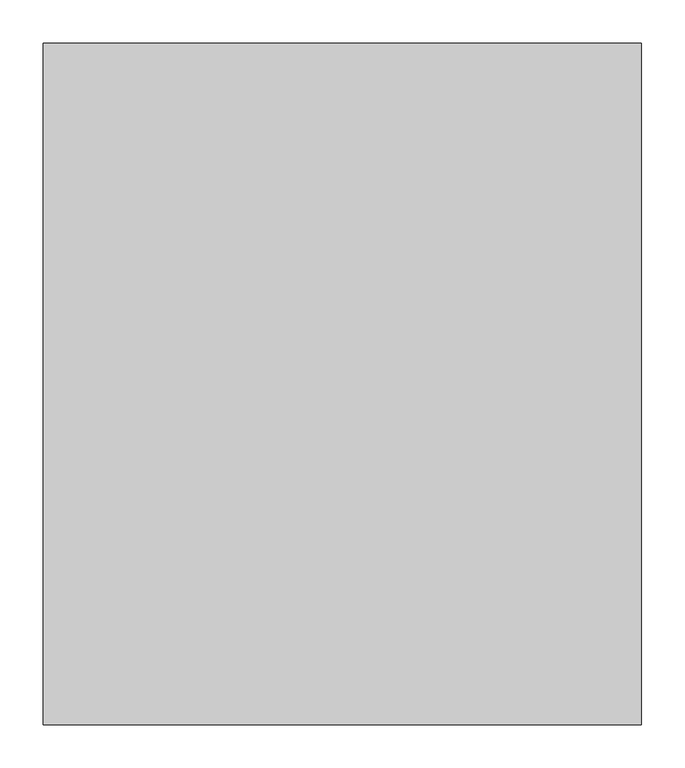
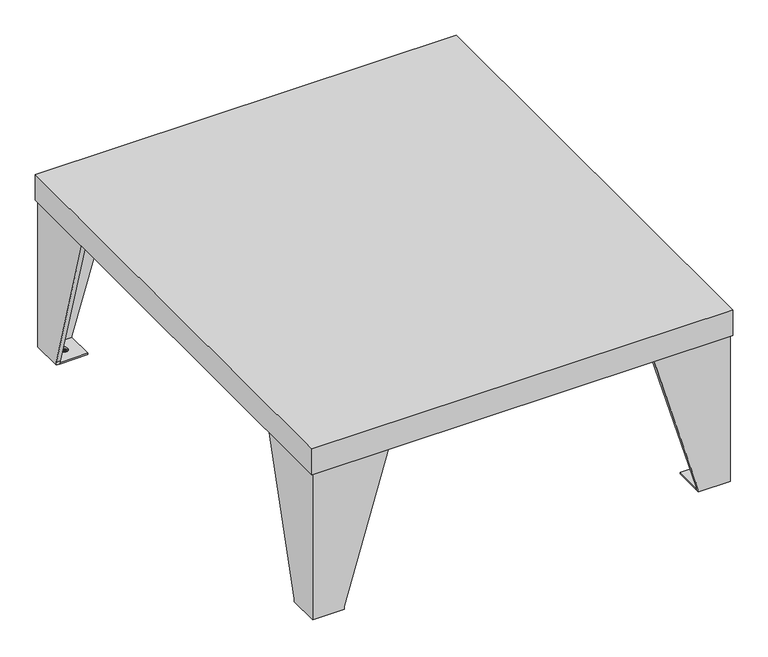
"""IFC4 building model written with IfcOpenShell, lengths in millimetres: proxy geometry, 11792140_EU_APWM038_IG : 59510038_EU_11792140_APWM038_IG."""

from ifc_helpers import new_model, si_unit, point, frame, frame_2d, origin, origin_with_axes, place, context, project, spatial, polyline, circle_curve, trimmed, segment, composite_curve, outline, extrude, faceted_brep, source, transform, mapped, element, save


def specialty_equipment_d00d0301(model_context):
    return source(origin(), model_context, "Body", "SolidModel", [
        extrude(outline(polyline([(-291.7, -734.4), (-291.7, -779.7), (-337.0, -779.7), (-337.0, -734.4), (-291.7, -734.4)]), holes=[composite_curve([segment(trimmed(circle_curve(frame_2d((-316.7, -759.4)), 6.5478227), [point((-323.2478227, -759.4))], [point((-310.1521773, -759.4))], True, "CARTESIAN"), True, "CONTINUOUS"), segment(trimmed(circle_curve(frame_2d((-316.7, -759.4)), 6.5478227), [point((-310.1521773, -759.4))], [point((-323.2478227, -759.4))], True, "CARTESIAN"), True, "CONTINUOUS")], self_intersect=False)]), origin_with_axes(), (0.0, 0.0, 1.0), 2.5),
        extrude(outline(polyline([(-291.7, -55.0), (-337.0, -55.0), (-337.0, -9.7), (-291.7, -9.7), (-291.7, -55.0)]), holes=[composite_curve([segment(trimmed(circle_curve(frame_2d((-316.7, -30.0)), 6.5478227), [point((-310.1521773, -30.0))], [point((-323.2478227, -30.0))], True, "CARTESIAN"), True, "CONTINUOUS"), segment(trimmed(circle_curve(frame_2d((-316.7, -30.0)), 6.5478227), [point((-323.2478227, -30.0))], [point((-310.1521773, -30.0))], True, "CARTESIAN"), True, "CONTINUOUS")], self_intersect=False)]), origin_with_axes(), (0.0, 0.0, 1.0), 2.5),
        extrude(outline(polyline([(291.7, -55.0), (291.7, -9.7), (337.0, -9.7), (337.0, -55.0), (291.7, -55.0)]), holes=[composite_curve([segment(trimmed(circle_curve(frame_2d((316.7, -30.0)), 6.5478227), [point((323.2478227, -30.0))], [point((310.1521773, -30.0))], True, "CARTESIAN"), True, "CONTINUOUS"), segment(trimmed(circle_curve(frame_2d((316.7, -30.0)), 6.5478227), [point((310.1521773, -30.0))], [point((323.2478227, -30.0))], True, "CARTESIAN"), True, "CONTINUOUS")], self_intersect=False)]), origin_with_axes(), (0.0, 0.0, 1.0), 2.5),
        extrude(outline(polyline([(291.7, -734.4), (337.0, -734.4), (337.0, -779.7), (291.7, -779.7), (291.7, -734.4)]), holes=[composite_curve([segment(trimmed(circle_curve(frame_2d((316.7, -759.4)), 6.5478227), [point((310.1521773, -759.4))], [point((323.2478227, -759.4))], True, "CARTESIAN"), True, "CONTINUOUS"), segment(trimmed(circle_curve(frame_2d((316.7, -759.4)), 6.5478227), [point((323.2478227, -759.4))], [point((310.1521773, -759.4))], True, "CARTESIAN"), True, "CONTINUOUS")], self_intersect=False)]), origin_with_axes(), (0.0, 0.0, 1.0), 2.5),
        faceted_brep([(346.7, -789.4, 300.0), (-346.7, -789.4, 300.0), (-346.7, -789.4, 254.9999847), (346.7, -789.4, 254.9999847), (346.7, 0.0, 300.0), (346.7, 0.0, 254.9999847), (-346.7, 0.0, 254.9999847), (-346.7, 0.0, 300.0), (-342.7, -785.4, 254.9999847), (342.7, -785.4, 254.9999847), (342.7, -4.0, 254.9999847), (-342.7, -4.0, 254.9999847), (-342.7, -785.4, 298.0), (342.7, -785.4, 298.0), (342.7, -4.0, 298.0), (-342.7, -4.0, 298.0)], [[[0, 1, 2, 3]], [[4, 5, 6, 7]], [[1, 0, 4, 7]], [[2, 1, 7, 6]], [[3, 2, 6, 5], [8, 9, 10, 11]], [[0, 3, 5, 4]], [[8, 12, 13, 9]], [[10, 14, 15, 11]], [[9, 13, 14, 10]], [[13, 12, 15, 14]], [[12, 8, 11, 15]]]),
        faceted_brep([(218.120279, -786.4, 254.9999847), (343.7, -786.4, 254.9999847), (343.7, -660.8205631, 254.9999847), (337.0, -660.8205631, 254.9999847), (337.0, -779.7, 254.9999847), (218.120279, -779.7, 254.9999847), (291.7, -779.7, 0.0), (337.0, -779.7, 0.0), (337.0, -734.4, 0.0), (343.7, -734.4, 0.0), (343.7, -786.4, 0.0), (291.7, -786.4, 0.0), (337.0, -734.4, 5.0), (343.7, -734.4, 5.0), (291.7, -786.4, 5.0), (291.7, -779.7, 5.0)], [[[0, 1, 2, 3, 4, 5]], [[6, 7, 8, 9, 10, 11]], [[12, 13, 9, 8]], [[13, 12, 3, 2]], [[14, 15, 6, 11]], [[15, 14, 0, 5]], [[1, 0, 14, 11, 10]], [[1, 10, 9, 13, 2]], [[7, 4, 3, 12, 8]], [[5, 4, 7, 6, 15]]]),
        faceted_brep([(-218.120279, -779.7, 254.9999847), (-337.0, -779.7, 254.9999847), (-337.0, -660.8205631, 254.9999847), (-343.7, -660.8205631, 254.9999847), (-343.7, -786.4, 254.9999847), (-218.120279, -786.4, 254.9999847), (-291.7, -786.4, 0.0), (-343.7, -786.4, 0.0), (-343.7, -734.4, 0.0), (-337.0, -734.4, 0.0), (-337.0, -779.7, 0.0), (-291.7, -779.7, 0.0), (-291.7, -779.7, 5.0), (-291.7, -786.4, 5.0), (-343.7, -734.4, 5.0), (-337.0, -734.4, 5.0)], [[[0, 1, 2, 3, 4, 5]], [[6, 7, 8, 9, 10, 11]], [[12, 13, 6, 11]], [[13, 12, 0, 5]], [[14, 15, 9, 8]], [[15, 14, 3, 2]], [[1, 0, 12, 11, 10]], [[1, 10, 9, 15, 2]], [[7, 4, 3, 14, 8]], [[5, 4, 7, 6, 13]]]),
        faceted_brep([(-218.120279, -3.0, 254.9999847), (-343.7, -3.0, 254.9999847), (-343.7, -128.5922782, 254.9999847), (-337.0, -128.5922782, 254.9999847), (-337.0, -9.7, 254.9999847), (-218.120279, -9.7, 254.9999847), (-291.7, -9.7, 0.0), (-337.0, -9.7, 0.0), (-337.0, -55.0, 0.0), (-343.7, -55.0, 0.0), (-343.7, -3.0, 0.0), (-291.7, -3.0, 0.0), (-291.7, -3.0, 5.0), (-291.7, -9.7, 5.0), (-337.0, -55.0, 5.0), (-343.7, -55.0, 5.0)], [[[0, 1, 2, 3, 4, 5]], [[6, 7, 8, 9, 10, 11]], [[12, 13, 6, 11]], [[13, 12, 0, 5]], [[14, 15, 9, 8]], [[15, 14, 3, 2]], [[1, 0, 12, 11, 10]], [[1, 10, 9, 15, 2]], [[7, 4, 3, 14, 8]], [[5, 4, 7, 6, 13]]]),
        faceted_brep([(218.120279, -9.7, 254.9999847), (337.0, -9.7, 254.9999847), (337.0, -128.5922782, 254.9999847), (343.7, -128.5922782, 254.9999847), (343.7, -3.0, 254.9999847), (218.120279, -3.0, 254.9999847), (291.7, -3.0, 0.0), (343.7, -3.0, 0.0), (343.7, -55.0, 0.0), (337.0, -55.0, 0.0), (337.0, -9.7, 0.0), (291.7, -9.7, 0.0), (343.7, -55.0, 5.0), (337.0, -55.0, 5.0), (291.7, -9.7, 5.0), (291.7, -3.0, 5.0)], [[[0, 1, 2, 3, 4, 5]], [[6, 7, 8, 9, 10, 11]], [[12, 13, 9, 8]], [[13, 12, 3, 2]], [[14, 15, 6, 11]], [[15, 14, 0, 5]], [[1, 0, 14, 11, 10]], [[1, 10, 9, 13, 2]], [[7, 4, 3, 12, 8]], [[5, 4, 7, 6, 15]]]),
        extrude(outline(polyline([(-320.2316672, -764.4), (-320.2316672, -754.354369), (-316.3983368, -754.354369), (-314.5209123, -754.6499009), (-313.4123612, -755.5585694), (-313.0113699, -756.8437038), (-313.348595, -758.0172474), (-314.3676282, -758.9062955), (-313.1303184, -759.8431684), (-312.6974439, -761.4054406), (-312.9929758, -762.7555675), (-313.7250609, -763.7169658), (-314.8176705, -764.2270955), (-316.4277673, -764.4), (-320.2316672, -764.4)]), holes=[polyline([(-318.9759633, -758.4354066), (-316.6828322, -758.4354066), (-315.3437417, -758.3274945), (-314.5380801, -757.8627369), (-314.2670737, -757.0448126), (-314.519686, -756.2256621), (-315.2431873, -755.7412841), (-316.856963, -755.6100729), (-318.9759633, -755.6100729), (-318.9759633, -758.4354066)]), polyline([(-318.9759633, -763.1442961), (-316.4007893, -763.1442961), (-315.4688216, -763.0952452), (-314.6803278, -762.8217862), (-313.9531478, -761.4177033), (-314.1934973, -760.4415897), (-314.9721809, -759.8591099), (-316.5234166, -759.6911105), (-318.9759633, -759.6911105), (-318.9759633, -763.1442961)])]), frame((0.0, 0.0, -1.0), z_axis=(0.0, 0.0, 1.0), x_axis=(1.0, 0.0, 0.0)), (0.0, 0.0, 1.0), 1.0),
        extrude(outline(polyline([(313.2154503, -764.4), (313.2154503, -754.354369), (317.0487807, -754.354369), (318.9262051, -754.6499009), (320.0347562, -755.5585694), (320.4357476, -756.8437038), (320.0985224, -758.0172474), (319.0794893, -758.9062955), (320.3167991, -759.8431684), (320.7496736, -761.4054406), (320.4541417, -762.7555675), (319.7220565, -763.7169658), (318.629447, -764.2270955), (317.0193501, -764.4), (313.2154503, -764.4)]), holes=[polyline([(314.4711542, -758.4354066), (316.7642853, -758.4354066), (318.1033757, -758.3274945), (318.9090373, -757.8627369), (319.1800437, -757.0448126), (318.9274314, -756.2256621), (318.2039301, -755.7412841), (316.5901545, -755.6100729), (314.4711542, -755.6100729), (314.4711542, -758.4354066)]), polyline([(314.4711542, -763.1442961), (317.0463281, -763.1442961), (317.9782959, -763.0952452), (318.7667896, -762.8217862), (319.4939697, -761.4177033), (319.2536201, -760.4415897), (318.4749366, -759.8591099), (316.9237008, -759.6911105), (314.4711542, -759.6911105), (314.4711542, -763.1442961)])]), frame((0.0, 0.0, -1.0), z_axis=(0.0, 0.0, 1.0), x_axis=(1.0, 0.0, 0.0)), (0.0, 0.0, 1.0), 1.0),
        extrude(outline(polyline([(313.634492, -35.0), (313.634492, -24.954369), (317.4678224, -24.954369), (319.3452468, -25.2499009), (320.4537979, -26.1585694), (320.8547893, -27.4437038), (320.5175641, -28.6172474), (319.498531, -29.5062955), (320.7358408, -30.4431684), (321.1687153, -32.0054406), (320.8731834, -33.3555675), (320.1410982, -34.3169658), (319.0484887, -34.8270955), (317.4383918, -35.0), (313.634492, -35.0)]), holes=[polyline([(314.8901959, -29.0354066), (317.183327, -29.0354066), (318.5224174, -28.9274945), (319.328079, -28.4627369), (319.5990854, -27.6448126), (319.3464731, -26.8256621), (318.6229719, -26.3412841), (317.0091962, -26.2100729), (314.8901959, -26.2100729), (314.8901959, -29.0354066)]), polyline([(314.8901959, -33.7442961), (317.4653698, -33.7442961), (318.3973376, -33.6952452), (319.1858313, -33.4217862), (319.9130114, -32.0177033), (319.6726618, -31.0415897), (318.8939783, -30.4591099), (317.3427425, -30.2911105), (314.8901959, -30.2911105), (314.8901959, -33.7442961)])]), frame((0.0, 0.0, -1.0), z_axis=(0.0, 0.0, 1.0), x_axis=(1.0, 0.0, 0.0)), (0.0, 0.0, 1.0), 1.0),
        extrude(outline(polyline([(-319.9245415, -34.4521773), (-319.9245415, -24.4065463), (-316.0912111, -24.4065463), (-314.2137866, -24.7020782), (-313.1052356, -25.6107467), (-312.7042442, -26.8958811), (-313.0414693, -28.0694247), (-314.0605025, -28.9584729), (-312.8231927, -29.8953457), (-312.3903182, -31.4576179), (-312.6858501, -32.8077448), (-313.4179353, -33.7691431), (-314.5105448, -34.2792728), (-316.1206416, -34.4521773), (-319.9245415, -34.4521773)]), holes=[polyline([(-318.6688376, -28.4875839), (-316.3757065, -28.4875839), (-315.036616, -28.3796719), (-314.2309545, -27.9149143), (-313.9599481, -27.09699), (-314.2125604, -26.2778394), (-314.9360616, -25.7934614), (-316.5498373, -25.6622502), (-318.6688376, -25.6622502), (-318.6688376, -28.4875839)]), polyline([(-318.6688376, -33.1964734), (-316.0936636, -33.1964734), (-315.1616959, -33.1474225), (-314.3732022, -32.8739636), (-313.6460221, -31.4698806), (-313.8863717, -30.4937671), (-314.6650552, -29.9112872), (-316.216291, -29.7432878), (-318.6688376, -29.7432878), (-318.6688376, -33.1964734)])]), frame((0.0, 0.0, -1.0), z_axis=(0.0, 0.0, 1.0), x_axis=(1.0, 0.0, 0.0)), (0.0, 0.0, 1.0), 1.0),
    ])


if __name__ == "__main__":
    model = new_model("IFC4")
    model_context = context("Model", 3, world=origin())
    ifc_project = project(units=[si_unit("LENGTHUNIT", "METRE", prefix="MILLI")], contexts=[model_context])
    site = spatial("IfcSite", under=ifc_project)
    building = spatial("IfcBuilding", under=site)
    placement = place(None, origin())
    specialty_equipment_shape = specialty_equipment_d00d0301(model_context)
    element("IfcBuildingElementProxy", 1, Name="11792140_EU_APWM038_IG : 59510038_EU_11792140_APWM038_IG", ObjectType="11792140_EU_APWM038_IG : 59510038_EU_11792140_APWM038_IG", at=placement, inside=building, context=model_context, shape_type="MappedRepresentation", body=[
        mapped(specialty_equipment_shape, transform((0.0, 0.0, 0.0), x_axis=(1.0, 0.0, 0.0), y_axis=(0.0, 1.0, 0.0), z_axis=(0.0, 0.0, 1.0))),
    ])
    save(model, "model.ifc")
